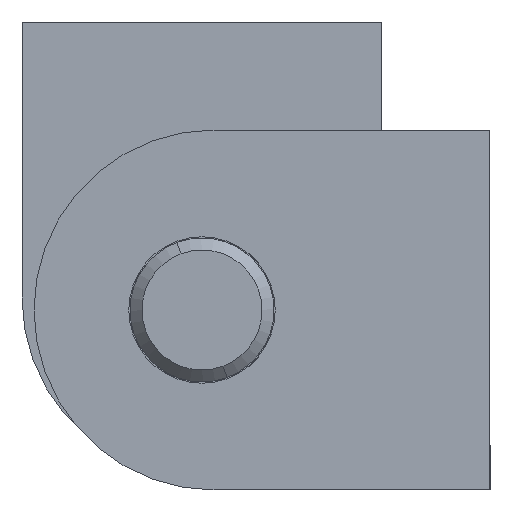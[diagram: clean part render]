
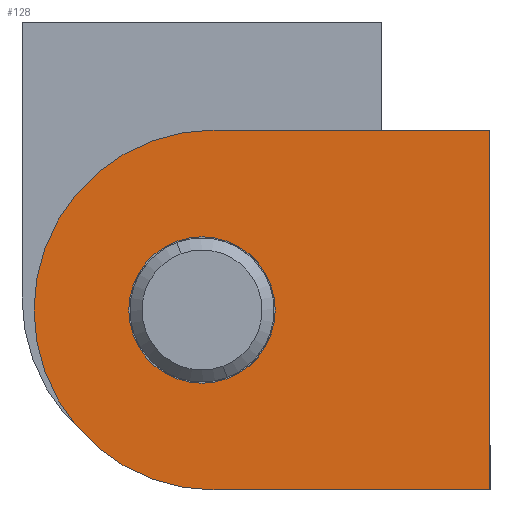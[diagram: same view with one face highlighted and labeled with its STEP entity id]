
A CAD part, front view. The second image highlights one B-rep face of the part: STEP entity #128.
In plain terms, the highlighted planar face has unit normal (0, -1, 0) as drawn and (1, 0, 0) by its records, which use the part's own axes.
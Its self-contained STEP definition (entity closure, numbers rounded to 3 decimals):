
#90 = EDGE_CURVE ( 'NONE', #95, #97, #1231, .T. ) ;
#95 = VERTEX_POINT ( 'NONE', #1223 ) ;
#97 = VERTEX_POINT ( 'NONE', #1221 ) ;
#120 = EDGE_CURVE ( 'NONE', #97, #1017, #1300, .T. ) ;
#122 = ORIENTED_EDGE ( 'NONE', *, *, #120, .T. ) ;
#124 = ORIENTED_EDGE ( 'NONE', *, *, #90, .T. ) ;
#125 = ORIENTED_EDGE ( 'NONE', *, *, #126, .T. ) ;
#126 = EDGE_CURVE ( 'NONE', #1019, #95, #1296, .T. ) ;
#128 = ADVANCED_FACE ( 'NONE', ( #1287, #1286 ), #1285, .F. ) ;
#129 = ORIENTED_EDGE ( 'NONE', *, *, #132, .T. ) ;
#130 = ORIENTED_EDGE ( 'NONE', *, *, #1016, .F. ) ;
#131 = EDGE_LOOP ( 'NONE', ( #129, #133 ) ) ;
#132 = EDGE_CURVE ( 'NONE', #968, #969, #1279, .T. ) ;
#133 = ORIENTED_EDGE ( 'NONE', *, *, #967, .T. ) ;
#134 = EDGE_LOOP ( 'NONE', ( #130, #125, #124, #122 ) ) ;
#967 = EDGE_CURVE ( 'NONE', #969, #968, #3035, .T. ) ;
#968 = VERTEX_POINT ( 'NONE', #3030 ) ;
#969 = VERTEX_POINT ( 'NONE', #3029 ) ;
#1016 = EDGE_CURVE ( 'NONE', #1019, #1017, #3170, .T. ) ;
#1017 = VERTEX_POINT ( 'NONE', #3166 ) ;
#1019 = VERTEX_POINT ( 'NONE', #3164 ) ;
#1221 = CARTESIAN_POINT ( 'NONE',  ( 22.5, 0., 7.5 ) ) ;
#1223 = CARTESIAN_POINT ( 'NONE',  ( 22.5, 11.5, 7.5 ) ) ;
#1228 = DIRECTION ( 'NONE',  ( 0., -1., 0. ) ) ;
#1229 = VECTOR ( 'NONE', #1228, 1000. ) ;
#1230 = CARTESIAN_POINT ( 'NONE',  ( 22.5, 19., 7.5 ) ) ;
#1231 = LINE ( 'NONE', #1230, #1229 ) ;
#1276 = DIRECTION ( 'NONE',  ( 0., 0., 1. ) ) ;
#1277 = DIRECTION ( 'NONE',  ( -1., 0., 0. ) ) ;
#1278 = AXIS2_PLACEMENT_3D ( 'NONE', #1283, #1277, #1276 ) ;
#1279 = CIRCLE ( 'NONE', #1278, 3.05 ) ;
#1280 = DIRECTION ( 'NONE',  ( 0., 0., 1. ) ) ;
#1281 = DIRECTION ( 'NONE',  ( -1., 0., 0. ) ) ;
#1282 = AXIS2_PLACEMENT_3D ( 'NONE', #1284, #1281, #1280 ) ;
#1283 = CARTESIAN_POINT ( 'NONE',  ( 22.5, 12., 0. ) ) ;
#1284 = CARTESIAN_POINT ( 'NONE',  ( 22.5, 19., -7.5 ) ) ;
#1285 = PLANE ( 'NONE',  #1282 ) ;
#1286 = FACE_OUTER_BOUND ( 'NONE', #134, .T. ) ;
#1287 = FACE_BOUND ( 'NONE', #131, .T. ) ;
#1292 = DIRECTION ( 'NONE',  ( 0., 0., 1. ) ) ;
#1293 = DIRECTION ( 'NONE',  ( 1., 0., 0. ) ) ;
#1294 = CARTESIAN_POINT ( 'NONE',  ( 22.5, 11.5, 0. ) ) ;
#1295 = AXIS2_PLACEMENT_3D ( 'NONE', #1294, #1293, #1292 ) ;
#1296 = CIRCLE ( 'NONE', #1295, 7.5 ) ;
#1297 = DIRECTION ( 'NONE',  ( 0., 0., -1. ) ) ;
#1298 = VECTOR ( 'NONE', #1297, 1000. ) ;
#1299 = CARTESIAN_POINT ( 'NONE',  ( 22.5, 0., -7.5 ) ) ;
#1300 = LINE ( 'NONE', #1299, #1298 ) ;
#3029 = CARTESIAN_POINT ( 'NONE',  ( 22.5, 12., -3.05 ) ) ;
#3030 = CARTESIAN_POINT ( 'NONE',  ( 22.5, 12., 3.05 ) ) ;
#3031 = DIRECTION ( 'NONE',  ( 0., 0., 1. ) ) ;
#3032 = DIRECTION ( 'NONE',  ( -1., 0., 0. ) ) ;
#3033 = CARTESIAN_POINT ( 'NONE',  ( 22.5, 12., 0. ) ) ;
#3034 = AXIS2_PLACEMENT_3D ( 'NONE', #3033, #3032, #3031 ) ;
#3035 = CIRCLE ( 'NONE', #3034, 3.05 ) ;
#3164 = CARTESIAN_POINT ( 'NONE',  ( 22.5, 11.5, -7.5 ) ) ;
#3166 = CARTESIAN_POINT ( 'NONE',  ( 22.5, 0., -7.5 ) ) ;
#3167 = DIRECTION ( 'NONE',  ( 0., -1., 0. ) ) ;
#3168 = VECTOR ( 'NONE', #3167, 1000. ) ;
#3169 = CARTESIAN_POINT ( 'NONE',  ( 22.5, 19., -7.5 ) ) ;
#3170 = LINE ( 'NONE', #3169, #3168 ) ;
